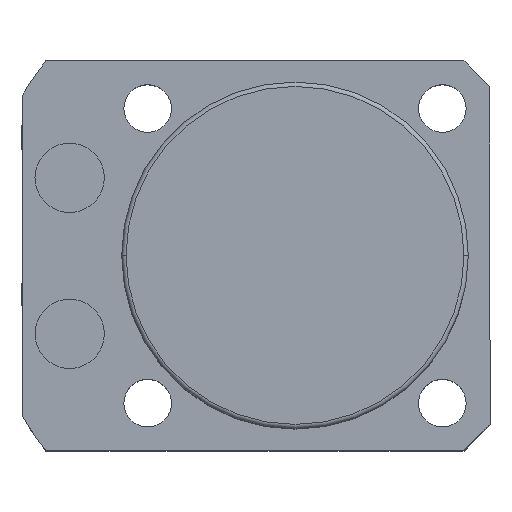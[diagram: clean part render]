
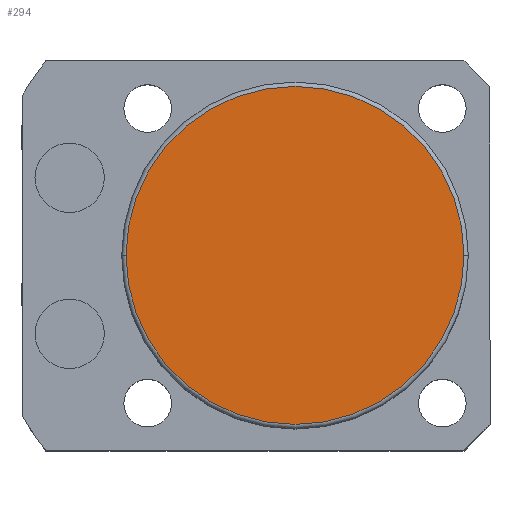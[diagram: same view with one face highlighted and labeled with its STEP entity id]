
A CAD part, top view. The second image highlights one B-rep face of the part: STEP entity #294.
In plain terms, the highlighted planar face has unit normal (0, 0, 1).
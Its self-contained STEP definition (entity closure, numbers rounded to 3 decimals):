
#18 = ORIENTED_EDGE ( 'NONE', *, *, #2186, .T. ) ;
#117 = DIRECTION ( 'NONE',  ( 0., 0., 1. ) ) ;
#294 = ADVANCED_FACE ( 'NONE', ( #537 ), #1778, .T. ) ;
#322 = DIRECTION ( 'NONE',  ( 1., 0., 0. ) ) ;
#435 = EDGE_LOOP ( 'NONE', ( #784, #18 ) ) ;
#490 = DIRECTION ( 'NONE',  ( 1., 0., 0. ) ) ;
#537 = FACE_OUTER_BOUND ( 'NONE', #435, .T. ) ;
#686 = VERTEX_POINT ( 'NONE', #1698 ) ;
#687 = DIRECTION ( 'NONE',  ( 0., 0., 1. ) ) ;
#765 = VERTEX_POINT ( 'NONE', #892 ) ;
#784 = ORIENTED_EDGE ( 'NONE', *, *, #2012, .T. ) ;
#822 = CARTESIAN_POINT ( 'NONE',  ( 0., 0., 38.5 ) ) ;
#892 = CARTESIAN_POINT ( 'NONE',  ( -19.5, 0., 38.5 ) ) ;
#1182 = AXIS2_PLACEMENT_3D ( 'NONE', #2309, #117, #490 ) ;
#1583 = CARTESIAN_POINT ( 'NONE',  ( 0., 0., 38.5 ) ) ;
#1602 = AXIS2_PLACEMENT_3D ( 'NONE', #1583, #687, #322 ) ;
#1644 = CIRCLE ( 'NONE', #1728, 19.5 ) ;
#1698 = CARTESIAN_POINT ( 'NONE',  ( 19.5, 0., 38.5 ) ) ;
#1728 = AXIS2_PLACEMENT_3D ( 'NONE', #822, #2305, #2276 ) ;
#1778 = PLANE ( 'NONE',  #1602 ) ;
#1888 = CIRCLE ( 'NONE', #1182, 19.5 ) ;
#2012 = EDGE_CURVE ( 'NONE', #686, #765, #1644, .T. ) ;
#2186 = EDGE_CURVE ( 'NONE', #765, #686, #1888, .T. ) ;
#2276 = DIRECTION ( 'NONE',  ( 1., 0., 0. ) ) ;
#2305 = DIRECTION ( 'NONE',  ( 0., 0., 1. ) ) ;
#2309 = CARTESIAN_POINT ( 'NONE',  ( 0., 0., 38.5 ) ) ;
